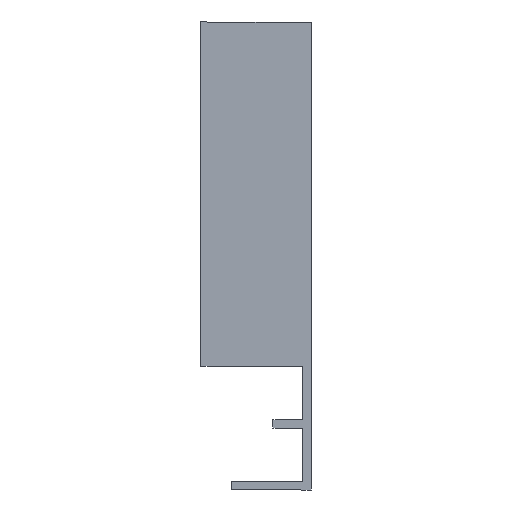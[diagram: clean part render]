
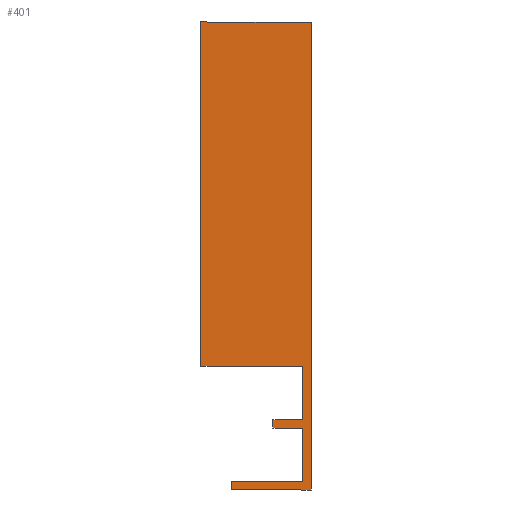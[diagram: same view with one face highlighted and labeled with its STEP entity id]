
A CAD part, left-side view. The second image highlights one B-rep face of the part: STEP entity #401.
In plain terms, the highlighted planar face has unit normal (-1, 0, 0).
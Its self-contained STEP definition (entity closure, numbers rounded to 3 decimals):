
#9 = VECTOR ( 'NONE', #342, 1000. ) ;
#13 = VECTOR ( 'NONE', #336, 1000. ) ;
#14 = LINE ( 'NONE', #335, #13 ) ;
#15 = VECTOR ( 'NONE', #334, 1000. ) ;
#16 = LINE ( 'NONE', #333, #15 ) ;
#17 = VECTOR ( 'NONE', #332, 1000. ) ;
#18 = LINE ( 'NONE', #331, #17 ) ;
#23 = VECTOR ( 'NONE', #326, 1000. ) ;
#28 = LINE ( 'NONE', #325, #9 ) ;
#30 = LINE ( 'NONE', #321, #23 ) ;
#46 = VECTOR ( 'NONE', #301, 1000. ) ;
#50 = LINE ( 'NONE', #298, #46 ) ;
#51 = VECTOR ( 'NONE', #295, 1000. ) ;
#53 = LINE ( 'NONE', #288, #56 ) ;
#55 = LINE ( 'NONE', #291, #51 ) ;
#56 = VECTOR ( 'NONE', #293, 1000. ) ;
#72 = FACE_OUTER_BOUND ( 'NONE', #86, .T. ) ;
#86 = EDGE_LOOP ( 'NONE', ( #122, #125, #123, #126, #124, #127, #128, #129, #130, #131, #132, #133 ) ) ;
#122 = ORIENTED_EDGE ( 'NONE', *, *, #492, .T. ) ;
#123 = ORIENTED_EDGE ( 'NONE', *, *, #481, .T. ) ;
#124 = ORIENTED_EDGE ( 'NONE', *, *, #449, .T. ) ;
#125 = ORIENTED_EDGE ( 'NONE', *, *, #499, .T. ) ;
#126 = ORIENTED_EDGE ( 'NONE', *, *, #511, .T. ) ;
#127 = ORIENTED_EDGE ( 'NONE', *, *, #472, .T. ) ;
#128 = ORIENTED_EDGE ( 'NONE', *, *, #501, .T. ) ;
#129 = ORIENTED_EDGE ( 'NONE', *, *, #452, .T. ) ;
#130 = ORIENTED_EDGE ( 'NONE', *, *, #482, .T. ) ;
#131 = ORIENTED_EDGE ( 'NONE', *, *, #505, .T. ) ;
#132 = ORIENTED_EDGE ( 'NONE', *, *, #448, .T. ) ;
#133 = ORIENTED_EDGE ( 'NONE', *, *, #483, .T. ) ;
#186 = VERTEX_POINT ( 'NONE', #197 ) ;
#191 = VERTEX_POINT ( 'NONE', #195 ) ;
#193 = CARTESIAN_POINT ( 'NONE',  ( -435.5, -4.3, -8.95 ) ) ;
#195 = CARTESIAN_POINT ( 'NONE',  ( -435.5, 6., -16.7 ) ) ;
#197 = CARTESIAN_POINT ( 'NONE',  ( -435.5, 6., -17.9 ) ) ;
#199 = VERTEX_POINT ( 'NONE', #193 ) ;
#226 = PLANE ( 'NONE',  #463 ) ;
#229 = CARTESIAN_POINT ( 'NONE',  ( -435.5, 6., -16.7 ) ) ;
#235 = DIRECTION ( 'NONE',  ( -1., 0., 0. ) ) ;
#236 = DIRECTION ( 'NONE',  ( 0., -1., 0. ) ) ;
#253 = CARTESIAN_POINT ( 'NONE',  ( -435.5, -4.3, -16.7 ) ) ;
#264 = CARTESIAN_POINT ( 'NONE',  ( -435.5, -4.3, -7.75 ) ) ;
#265 = CARTESIAN_POINT ( 'NONE',  ( -435.5, 10.4, 49.7 ) ) ;
#266 = CARTESIAN_POINT ( 'NONE',  ( -435.5, 10.4, 0. ) ) ;
#268 = CARTESIAN_POINT ( 'NONE',  ( -435.5, -4.3, 0. ) ) ;
#270 = CARTESIAN_POINT ( 'NONE',  ( -435.5, 0., -7.75 ) ) ;
#272 = CARTESIAN_POINT ( 'NONE',  ( -435.5, 0., -8.95 ) ) ;
#275 = CARTESIAN_POINT ( 'NONE',  ( -435.5, -5.5, -17.9 ) ) ;
#279 = CARTESIAN_POINT ( 'NONE',  ( -435.5, -5.5, 49.7 ) ) ;
#288 = CARTESIAN_POINT ( 'NONE',  ( -435.5, 0., -8.95 ) ) ;
#291 = CARTESIAN_POINT ( 'NONE',  ( -435.5, -5.5, 49.7 ) ) ;
#293 = DIRECTION ( 'NONE',  ( 0., -1., 0. ) ) ;
#295 = DIRECTION ( 'NONE',  ( 0., 1., 0. ) ) ;
#298 = CARTESIAN_POINT ( 'NONE',  ( -435.5, -4.3, 0. ) ) ;
#301 = DIRECTION ( 'NONE',  ( 0., 0., -1. ) ) ;
#321 = CARTESIAN_POINT ( 'NONE',  ( -435.5, 10.4, 49.7 ) ) ;
#325 = CARTESIAN_POINT ( 'NONE',  ( -435.5, -4.3, -16.7 ) ) ;
#326 = DIRECTION ( 'NONE',  ( 0., 0., -1. ) ) ;
#331 = CARTESIAN_POINT ( 'NONE',  ( -435.5, 6., -17.9 ) ) ;
#332 = DIRECTION ( 'NONE',  ( 0., -1., 0. ) ) ;
#333 = CARTESIAN_POINT ( 'NONE',  ( -435.5, -4.3, -7.75 ) ) ;
#334 = DIRECTION ( 'NONE',  ( 0., 1., 0. ) ) ;
#335 = CARTESIAN_POINT ( 'NONE',  ( -435.5, -4.3, -8.95 ) ) ;
#336 = DIRECTION ( 'NONE',  ( 0., 0., -1. ) ) ;
#342 = DIRECTION ( 'NONE',  ( 0., 1., 0. ) ) ;
#349 = CARTESIAN_POINT ( 'NONE',  ( -435.5, 6., -16.7 ) ) ;
#350 = DIRECTION ( 'NONE',  ( 0., 0., -1. ) ) ;
#353 = CARTESIAN_POINT ( 'NONE',  ( -435.5, 10.4, 0. ) ) ;
#354 = DIRECTION ( 'NONE',  ( 0., -1., 0. ) ) ;
#361 = CARTESIAN_POINT ( 'NONE',  ( -435.5, 0., -7.75 ) ) ;
#362 = DIRECTION ( 'NONE',  ( 0., 0., -1. ) ) ;
#363 = CARTESIAN_POINT ( 'NONE',  ( -435.5, -5.5, -17.9 ) ) ;
#364 = DIRECTION ( 'NONE',  ( 0., 0., 1. ) ) ;
#401 = ADVANCED_FACE ( 'NONE', ( #72 ), #226, .T. ) ;
#410 = VERTEX_POINT ( 'NONE', #253 ) ;
#413 = VERTEX_POINT ( 'NONE', #265 ) ;
#415 = VERTEX_POINT ( 'NONE', #266 ) ;
#417 = VERTEX_POINT ( 'NONE', #268 ) ;
#419 = VERTEX_POINT ( 'NONE', #264 ) ;
#420 = VERTEX_POINT ( 'NONE', #270 ) ;
#422 = VERTEX_POINT ( 'NONE', #272 ) ;
#425 = VERTEX_POINT ( 'NONE', #275 ) ;
#431 = VERTEX_POINT ( 'NONE', #279 ) ;
#439 = LINE ( 'NONE', #349, #518 ) ;
#446 = LINE ( 'NONE', #353, #520 ) ;
#448 = EDGE_CURVE ( 'NONE', #422, #199, #53, .T. ) ;
#449 = EDGE_CURVE ( 'NONE', #431, #413, #55, .T. ) ;
#452 = EDGE_CURVE ( 'NONE', #417, #419, #50, .T. ) ;
#463 = AXIS2_PLACEMENT_3D ( 'NONE', #229, #235, #236 ) ;
#472 = EDGE_CURVE ( 'NONE', #413, #415, #30, .T. ) ;
#481 = EDGE_CURVE ( 'NONE', #186, #425, #18, .T. ) ;
#482 = EDGE_CURVE ( 'NONE', #419, #420, #16, .T. ) ;
#483 = EDGE_CURVE ( 'NONE', #199, #410, #14, .T. ) ;
#492 = EDGE_CURVE ( 'NONE', #410, #191, #28, .T. ) ;
#499 = EDGE_CURVE ( 'NONE', #191, #186, #439, .T. ) ;
#501 = EDGE_CURVE ( 'NONE', #415, #417, #446, .T. ) ;
#505 = EDGE_CURVE ( 'NONE', #420, #422, #527, .T. ) ;
#511 = EDGE_CURVE ( 'NONE', #425, #431, #529, .T. ) ;
#518 = VECTOR ( 'NONE', #350, 1000. ) ;
#520 = VECTOR ( 'NONE', #354, 1000. ) ;
#527 = LINE ( 'NONE', #361, #528 ) ;
#528 = VECTOR ( 'NONE', #362, 1000. ) ;
#529 = LINE ( 'NONE', #363, #530 ) ;
#530 = VECTOR ( 'NONE', #364, 1000. ) ;
